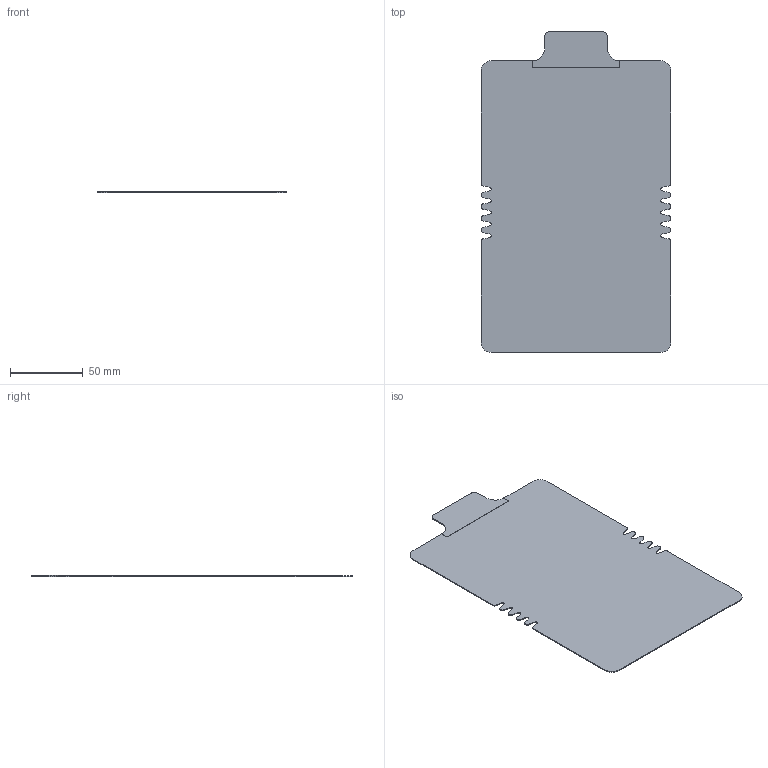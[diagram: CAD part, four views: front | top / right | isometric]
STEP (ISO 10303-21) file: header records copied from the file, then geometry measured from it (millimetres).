
FILE_DESCRIPTION (( 'STEP AP203' ), '1' );
FILE_NAME ('Ðàçäåëèòåëü óäëèíåííûé 2 öåíòðîìåòêà.STEP', '2026-10-09T09:25:52', ( '' ), ( '' ), 'SwSTEP 2.0', 'SolidWorks 2025', '' );
FILE_SCHEMA (( 'CONFIG_CONTROL_DESIGN' ));
Length unit declared in the file: millimetre
Products named in the file (1): Разделитель удлиненный 2 центрометка
Bounding box: 130 x 220 x 0.8 mm (x, y, z)
Volume: 16194.1 mm3; surface area: 53687.4 mm2
Topology: 1 solids, 1 shells, 64 faces, 186 edges, 124 vertices
Faces by surface type: cylinder 28, bspline 20, plane 16
Entity records: 2265 total; most frequent: CARTESIAN_POINT 635, ORIENTED_EDGE 372, DIRECTION 294, EDGE_CURVE 186, VERTEX_POINT 124, AXIS2_PLACEMENT_3D 103, LINE 88, VECTOR 88
